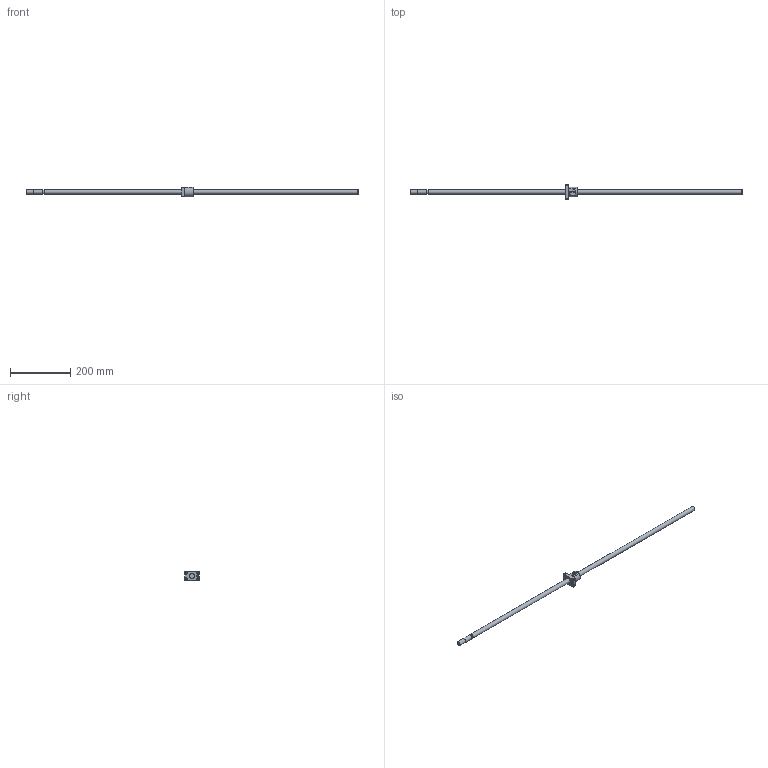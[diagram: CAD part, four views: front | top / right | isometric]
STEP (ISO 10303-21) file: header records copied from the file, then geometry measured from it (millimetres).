
FILE_DESCRIPTION (( 'STEP AP214' ), '1' );
FILE_NAME ('KBS(C)1504-1100.STEP', '2021-07-05T02:06:41', ( '' ), ( '' ), 'SwSTEP 2.0', 'SolidWorks 2019', '' );
FILE_SCHEMA (( 'AUTOMOTIVE_DESIGN' ));
Length unit declared in the file: millimetre
Products named in the file (3): KBS1504-1100; KBS(C)1504-1100; KBS1504
Assembly tree (2 placements, depth 2):
  KBS(C)1504-1100
    KBS1504-1100
    KBS1504
Bounding box: 1100 x 48 x 32 mm (x, y, z)
Volume: 223105.3 mm3; surface area: 62875.3 mm2
Topology: 2 solids, 2 shells, 103 faces, 259 edges, 171 vertices
Faces by surface type: plane 55, cylinder 40, cone 4, torus 4
Full cylindrical faces by diameter (mm): 2.9 x1, 5 x1, 5.5 x4, 5.6 x2, 9.5 x4, 13.1 x1, 14.5 x1, 15 x3, 17 x2, 32 x1
Entity records: 3303 total; most frequent: CARTESIAN_POINT 868, DIRECTION 464, ORIENTED_EDGE 448, EDGE_CURVE 224, AXIS2_PLACEMENT_3D 176, VERTEX_POINT 164, EDGE_LOOP 158, FACE_OUTER_BOUND 127
